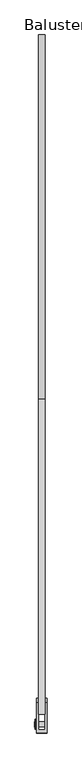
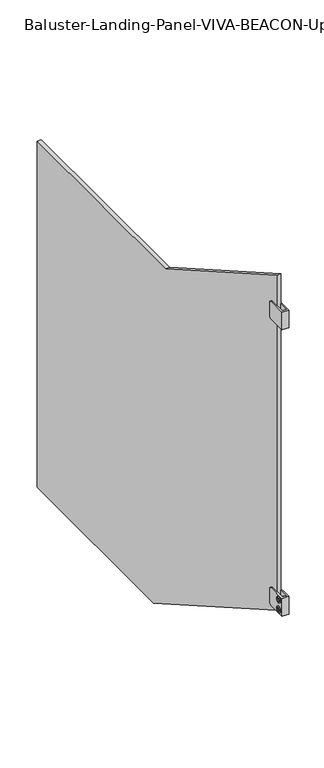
"""IFC4 building model written with IfcOpenShell, lengths in millimetres: railing geometry, Baluster-Landing-Panel-VIVA-BEACON-Upper : Standard_Glass."""

from ifc_helpers import new_model, si_unit, point, frame, origin, place, context, project, spatial, polyline, circle_curve, ellipse_curve, trimmed, outline, extrude, source, transform, mapped, element, save
from ifc_brep_helpers import plane_surface, cylinder_surface, revolved_surface, advanced_brep


def baluster_landing_panel_viva_beacon_upper_standard_glass_b4abdc5f(model_context):
    return source(origin(), model_context, "Body", "SolidModel", [
        advanced_brep(
        [(28.4327292, -26.9875, 1242.9597801), (28.4327292, 17.4625, 1242.9597801), (28.4327292, 23.8125, 1236.6097801), (28.4327292, 23.8125, 1204.8597801), (28.4327292, 17.4625, 1198.5097801), (28.4327292, -26.9875, 1198.5097801), (44.3077292, -26.9875, 1242.9597801), (44.3077292, -26.9875, 1198.5097801), (44.3077292, 17.4625, 1198.5097801), (44.3077292, 23.8125, 1204.8597801), (44.3077292, 23.8125, 1236.6097801), (44.3077292, 17.4625, 1242.9597801), (31.6077292, 17.4625, 1198.5097801), (31.6077292, -22.2694196, 1198.5097801), (41.1327292, -22.2694196, 1198.5097801), (41.1327292, 17.4625, 1198.5097801), (31.6077292, -22.2694196, 1242.9597801), (41.1327292, -22.2694196, 1242.9597801), (31.6077292, 23.8125, 1204.8597801), (31.6077292, 23.8125, 1236.6097801), (31.6077292, 17.4625, 1242.9597801), (41.1327292, 17.4625, 1242.9597801), (41.1327292, 23.8125, 1236.6097801), (41.1327292, 23.8125, 1204.8597801)],
        [
            (0, 1),
            (1, 2, circle_curve(frame((28.4327292, 17.4625, 1236.6097801), z_axis=(-1.0, 0.0, 0.0), x_axis=(0.0, 1.0, 0.0)), 6.35)),
            (2, 3),
            (3, 4, circle_curve(frame((28.4327292, 17.4625, 1204.8597801), z_axis=(-1.0, 0.0, 0.0), x_axis=(0.0, 1.0, 0.0)), 6.35)),
            (4, 5),
            (5, 0),
            (6, 7),
            (7, 8),
            (8, 9, circle_curve(frame((44.3077292, 17.4625, 1204.8597801), z_axis=(1.0, 0.0, 0.0), x_axis=(0.0, 1.0, 0.0)), 6.35)),
            (9, 10),
            (10, 11, circle_curve(frame((44.3077292, 17.4625, 1236.6097801), z_axis=(1.0, 0.0, 0.0), x_axis=(0.0, 1.0, 0.0)), 6.35)),
            (11, 6),
            (5, 7),
            (6, 0),
            (4, 12),
            (12, 13),
            (13, 14),
            (14, 15),
            (15, 8),
            (13, 16),
            (16, 17),
            (17, 14),
            (12, 18, circle_curve(frame((31.6077292, 17.4625, 1204.8597801), z_axis=(1.0, 0.0, 0.0), x_axis=(0.0, 1.0, 0.0)), 6.35)),
            (18, 19),
            (19, 20, circle_curve(frame((31.6077292, 17.4625, 1236.6097801), z_axis=(1.0, 0.0, 0.0), x_axis=(0.0, 1.0, 0.0)), 6.35)),
            (20, 16),
            (17, 21),
            (21, 22, circle_curve(frame((41.1327292, 17.4625, 1236.6097801), z_axis=(-1.0, 0.0, 0.0), x_axis=(0.0, 1.0, 0.0)), 6.35)),
            (22, 23),
            (23, 15, circle_curve(frame((41.1327292, 17.4625, 1204.8597801), z_axis=(-1.0, 0.0, 0.0), x_axis=(0.0, 1.0, 0.0)), 6.35)),
            (23, 9),
            (3, 18),
            (22, 10),
            (2, 19),
            (21, 11),
            (1, 20),
        ],
        [
            plane_surface(frame((28.4327292, -26.9875, 1198.5097801), z_axis=(-1.0, 0.0, 0.0), x_axis=(0.0, 0.0, -1.0))),
            plane_surface(frame((44.3077292, -26.9875, 1198.5097801), z_axis=(1.0, 0.0, 0.0), x_axis=(0.0, 0.0, 1.0))),
            plane_surface(frame((28.4327292, -26.9875, 1242.9597801), z_axis=(0.0, -1.0, 0.0), x_axis=(1.0, 0.0, 0.0))),
            plane_surface(frame((28.4327292, -26.9875, 1198.5097801), z_axis=(0.0, 0.0, -1.0), x_axis=(1.0, 0.0, 0.0))),
            plane_surface(frame((41.1327292, -22.2694196, 1255.6597801), z_axis=(0.0, 1.0, 0.0), x_axis=(0.0, 0.0, -1.0))),
            plane_surface(frame((31.6077292, -22.2694196, 1255.6597801), z_axis=(1.0, 0.0, 0.0), x_axis=(0.0, 0.0, -1.0))),
            plane_surface(frame((41.1327292, 36.5125, 1255.6597801), z_axis=(-1.0, 0.0, 0.0), x_axis=(0.0, 0.0, -1.0))),
            cylinder_surface(frame((44.3077292, 17.4625, 1204.8597801), z_axis=(-1.0, 0.0, 0.0), x_axis=(0.0, 1.0, 0.0)), 6.35),
            plane_surface(frame((28.4327292, 23.8125, 1204.8597801), z_axis=(0.0, 1.0, 0.0), x_axis=(1.0, 0.0, 0.0))),
            cylinder_surface(frame((44.3077292, 17.4625, 1236.6097801), z_axis=(-1.0, 0.0, 0.0), x_axis=(0.0, 1.0, 0.0)), 6.35),
            plane_surface(frame((28.4327292, 17.4625, 1242.9597801), z_axis=(0.0, 0.0, 1.0), x_axis=(1.0, 0.0, 0.0))),
        ],
        [
            (0, [[1, 2, 3, 4, 5, 6]]),
            (1, [[7, 8, 9, 10, 11, 12]]),
            (2, [[13, -7, 14, -6]]),
            (3, [[15, 16, 17, 18, 19, -8, -13, -5]]),
            (4, [[-17, 20, 21, 22]]),
            (5, [[-16, 23, 24, 25, 26, -20]]),
            (6, [[27, 28, 29, 30, -18, -22]]),
            (7, [[-19, -30, 31, -9]]),
            (7, [[32, -23, -15, -4]]),
            (8, [[-31, -29, 33, -10]]),
            (8, [[34, -24, -32, -3]]),
            (9, [[-33, -28, 35, -11]]),
            (9, [[36, -25, -34, -2]]),
            (10, [[-14, -12, -35, -27, -21, -26, -36, -1]]),
        ],
    ),
        extrude(outline(polyline([(-18.4480835, 512.022725), (-16.4011194, 515.5681709), (-12.3071911, 515.5681709), (-10.2602269, 512.022725), (-12.3071911, 508.4772791), (-16.4011194, 508.4772791), (-18.4480835, 512.022725)])), frame((26.0686477, 0.0, 0.0), z_axis=(1.0, 0.0, 0.0), x_axis=(0.0, 1.0, 0.0)), (0.0, 0.0, 1.0), 1.4969696),
        advanced_brep(
        [(41.1327292, -17.8996011, 512.022725), (28.4327292, -17.8996011, 512.022725), (28.4327292, -10.8087093, 512.022725), (41.1327292, -10.8087093, 512.022725), (28.4327292, -21.7619443, 512.022725), (28.4327292, -6.9463661, 512.022725), (27.5656173, -16.0102306, 512.022725), (41.1327292, -16.0102306, 512.022725), (41.1327292, -12.6980798, 512.022725), (27.5656173, -12.6980798, 512.022725), (27.5978844, -21.7619443, 512.022725), (26.3166123, -20.4806723, 512.022725), (26.3166123, -8.2276382, 512.022725), (27.5978844, -6.9463661, 512.022725), (26.3166123, -18.6527508, 512.022725), (26.3166123, -10.0555597, 512.022725), (27.5656173, -18.6527508, 512.022725), (27.5656173, -10.0555597, 512.022725)],
        [
            (0, 1),
            (1, 2, circle_curve(frame((28.4327292, -14.3541552, 512.022725), z_axis=(1.0, 0.0, 0.0), x_axis=(0.0, 1.0, 0.0)), 3.5454459)),
            (2, 3),
            (3, 0, circle_curve(frame((41.1327292, -14.3541552, 512.022725), z_axis=(-1.0, 0.0, 0.0), x_axis=(0.0, 1.0, 0.0)), 3.5454459)),
            (2, 1, circle_curve(frame((28.4327292, -14.3541552, 512.022725), z_axis=(1.0, 0.0, 0.0), x_axis=(0.0, 1.0, 0.0)), 3.5454459)),
            (0, 3, circle_curve(frame((41.1327292, -14.3541552, 512.022725), z_axis=(-1.0, 0.0, 0.0), x_axis=(0.0, 1.0, 0.0)), 3.5454459)),
            (1, 4),
            (4, 5, circle_curve(frame((28.4327292, -14.3541552, 512.022725), z_axis=(1.0, 0.0, 0.0), x_axis=(0.0, 1.0, 0.0)), 7.4077891)),
            (5, 2),
            (5, 4, circle_curve(frame((28.4327292, -14.3541552, 512.022725), z_axis=(1.0, 0.0, 0.0), x_axis=(0.0, 1.0, 0.0)), 7.4077891)),
            (6, 7),
            (7, 8, circle_curve(frame((41.1327292, -14.3541552, 512.022725), z_axis=(1.0, 0.0, 0.0), x_axis=(0.0, 1.0, 0.0)), 1.6560754)),
            (8, 9),
            (9, 6, circle_curve(frame((27.5656173, -14.3541552, 512.022725), z_axis=(-1.0, 0.0, 0.0), x_axis=(0.0, 1.0, 0.0)), 1.6560754)),
            (8, 7, circle_curve(frame((41.1327292, -14.3541552, 512.022725), z_axis=(1.0, 0.0, 0.0), x_axis=(0.0, 1.0, 0.0)), 1.6560754)),
            (6, 9, circle_curve(frame((27.5656173, -14.3541552, 512.022725), z_axis=(-1.0, 0.0, 0.0), x_axis=(0.0, 1.0, 0.0)), 1.6560754)),
            (10, 11, circle_curve(frame((27.5978844, -20.4806723, 512.022725), z_axis=(0.0, 0.0, -1.0), x_axis=(0.0, -1.0, 0.0)), 1.281272)),
            (11, 12, circle_curve(frame((26.3166123, -14.3541552, 512.022725), z_axis=(1.0, 0.0, 0.0), x_axis=(0.0, 1.0, 0.0)), 6.1265171)),
            (12, 13, circle_curve(frame((27.5978844, -8.2276382, 512.022725), z_axis=(0.0, 0.0, -1.0), x_axis=(0.0, 1.0, 0.0)), 1.281272)),
            (13, 10, circle_curve(frame((27.5978844, -14.3541552, 512.022725), z_axis=(-1.0, 0.0, 0.0), x_axis=(0.0, 1.0, 0.0)), 7.4077891)),
            (12, 11, circle_curve(frame((26.3166123, -14.3541552, 512.022725), z_axis=(1.0, 0.0, 0.0), x_axis=(0.0, 1.0, 0.0)), 6.1265171)),
            (10, 13, circle_curve(frame((27.5978844, -14.3541552, 512.022725), z_axis=(-1.0, 0.0, 0.0), x_axis=(0.0, 1.0, 0.0)), 7.4077891)),
            (11, 14),
            (14, 15, circle_curve(frame((26.3166123, -14.3541552, 512.022725), z_axis=(1.0, 0.0, 0.0), x_axis=(0.0, 1.0, 0.0)), 4.2985955)),
            (15, 12),
            (15, 14, circle_curve(frame((26.3166123, -14.3541552, 512.022725), z_axis=(1.0, 0.0, 0.0), x_axis=(0.0, 1.0, 0.0)), 4.2985955)),
            (4, 10),
            (13, 5),
            (7, 0),
            (3, 8),
            (14, 16),
            (16, 17, circle_curve(frame((27.5656173, -14.3541552, 512.022725), z_axis=(1.0, 0.0, 0.0), x_axis=(0.0, 1.0, 0.0)), 4.2985955)),
            (17, 15),
            (17, 16, circle_curve(frame((27.5656173, -14.3541552, 512.022725), z_axis=(1.0, 0.0, 0.0), x_axis=(0.0, 1.0, 0.0)), 4.2985955)),
            (16, 6),
            (9, 17),
        ],
        [
            cylinder_surface(frame((31.9294623, -14.3541552, 512.022725), z_axis=(1.0, 0.0, 0.0), x_axis=(0.0, 1.0, 0.0)), 3.5454459),
            plane_surface(frame((28.4327292, -14.3541552, 512.022725), z_axis=(1.0, 0.0, 0.0), x_axis=(0.0, 1.0, 0.0))),
            revolved_surface(polyline([(41.1327292, -12.698079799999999, 512.022725), (27.5656173, -12.698079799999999, 512.022725)]), (31.9294623, -14.3541552, 512.022725), (1.0, 0.0, 0.0)),
            revolved_surface(trimmed(ellipse_curve(frame((27.5978844, -8.2276382, 512.022725), z_axis=(0.0, 0.0, -1.0), x_axis=(0.0, 1.0, 0.0)), 1.281272, 1.281272), [point((26.3166123, -8.2276382, 512.022725))], [point((27.5978844, -6.9463661, 512.022725))], True, "CARTESIAN"), (31.9294623, -14.3541552, 512.022725), (1.0, 0.0, 0.0)),
            plane_surface(frame((26.3166123, -14.3541552, 512.022725), z_axis=(-1.0, 0.0, 0.0), x_axis=(0.0, 1.0, 0.0))),
            cylinder_surface(frame((31.9294623, -14.3541552, 512.022725), z_axis=(1.0, 0.0, 0.0), x_axis=(0.0, 1.0, 0.0)), 7.4077891),
            plane_surface(frame((41.1327292, -14.3541552, 512.022725), z_axis=(1.0, 0.0, 0.0), x_axis=(0.0, 1.0, 0.0))),
            revolved_surface(polyline([(27.5656173, -10.0555597, 512.022725), (26.3166123, -10.0555597, 512.022725)]), (31.9294623, -14.3541552, 512.022725), (1.0, 0.0, 0.0)),
            plane_surface(frame((27.5656173, -14.3541552, 512.022725), z_axis=(-1.0, 0.0, 0.0), x_axis=(0.0, 1.0, 0.0))),
        ],
        [
            (0, [[1, 2, 3, 4]]),
            (0, [[-3, 5, -1, 6]]),
            (1, [[7, 8, 9, -2]]),
            (1, [[-9, 10, -7, -5]]),
            (2, [[11, 12, 13, 14]]),
            (2, [[-13, 15, -11, 16]]),
            (3, [[17, 18, 19, 20]]),
            (3, [[-19, 21, -17, 22]]),
            (4, [[23, 24, 25, -18]]),
            (4, [[-25, 26, -23, -21]]),
            (5, [[27, -20, 28, -8]]),
            (5, [[-28, -22, -27, -10]]),
            (6, [[29, -4, 30, -12]]),
            (6, [[-30, -6, -29, -15]]),
            (7, [[31, 32, 33, -24]]),
            (7, [[-33, 34, -31, -26]]),
            (8, [[35, -14, 36, -32]]),
            (8, [[-36, -16, -35, -34]]),
        ],
    ),
        advanced_brep(
        [(41.1327292, -17.8996011, 487.416475), (28.4327292, -17.8996011, 487.416475), (28.4327292, -10.8087093, 487.416475), (41.1327292, -10.8087093, 487.416475), (28.4327292, -21.7619443, 487.416475), (28.4327292, -6.9463661, 487.416475), (27.5656173, -16.0102306, 487.416475), (41.1327292, -16.0102306, 487.416475), (41.1327292, -12.6980798, 487.416475), (27.5656173, -12.6980798, 487.416475), (27.5978844, -21.7619443, 487.416475), (26.3166123, -20.4806723, 487.416475), (26.3166123, -8.2276382, 487.416475), (27.5978844, -6.9463661, 487.416475), (26.3166123, -18.6527508, 487.416475), (26.3166123, -10.0555597, 487.416475), (27.5656173, -18.6527508, 487.416475), (27.5656173, -10.0555597, 487.416475)],
        [
            (0, 1),
            (1, 2, circle_curve(frame((28.4327292, -14.3541552, 487.416475), z_axis=(1.0, 0.0, 0.0), x_axis=(0.0, 1.0, 0.0)), 3.5454459)),
            (2, 3),
            (3, 0, circle_curve(frame((41.1327292, -14.3541552, 487.416475), z_axis=(-1.0, 0.0, 0.0), x_axis=(0.0, 1.0, 0.0)), 3.5454459)),
            (2, 1, circle_curve(frame((28.4327292, -14.3541552, 487.416475), z_axis=(1.0, 0.0, 0.0), x_axis=(0.0, 1.0, 0.0)), 3.5454459)),
            (0, 3, circle_curve(frame((41.1327292, -14.3541552, 487.416475), z_axis=(-1.0, 0.0, 0.0), x_axis=(0.0, 1.0, 0.0)), 3.5454459)),
            (1, 4),
            (4, 5, circle_curve(frame((28.4327292, -14.3541552, 487.416475), z_axis=(1.0, 0.0, 0.0), x_axis=(0.0, 1.0, 0.0)), 7.4077891)),
            (5, 2),
            (5, 4, circle_curve(frame((28.4327292, -14.3541552, 487.416475), z_axis=(1.0, 0.0, 0.0), x_axis=(0.0, 1.0, 0.0)), 7.4077891)),
            (6, 7),
            (7, 8, circle_curve(frame((41.1327292, -14.3541552, 487.416475), z_axis=(1.0, 0.0, 0.0), x_axis=(0.0, 1.0, 0.0)), 1.6560754)),
            (8, 9),
            (9, 6, circle_curve(frame((27.5656173, -14.3541552, 487.416475), z_axis=(-1.0, 0.0, 0.0), x_axis=(0.0, 1.0, 0.0)), 1.6560754)),
            (8, 7, circle_curve(frame((41.1327292, -14.3541552, 487.416475), z_axis=(1.0, 0.0, 0.0), x_axis=(0.0, 1.0, 0.0)), 1.6560754)),
            (6, 9, circle_curve(frame((27.5656173, -14.3541552, 487.416475), z_axis=(-1.0, 0.0, 0.0), x_axis=(0.0, 1.0, 0.0)), 1.6560754)),
            (10, 11, circle_curve(frame((27.5978844, -20.4806723, 487.416475), z_axis=(0.0, 0.0, -1.0), x_axis=(0.0, -1.0, 0.0)), 1.281272)),
            (11, 12, circle_curve(frame((26.3166123, -14.3541552, 487.416475), z_axis=(1.0, 0.0, 0.0), x_axis=(0.0, 1.0, 0.0)), 6.1265171)),
            (12, 13, circle_curve(frame((27.5978844, -8.2276382, 487.416475), z_axis=(0.0, 0.0, -1.0), x_axis=(0.0, 1.0, 0.0)), 1.281272)),
            (13, 10, circle_curve(frame((27.5978844, -14.3541552, 487.416475), z_axis=(-1.0, 0.0, 0.0), x_axis=(0.0, 1.0, 0.0)), 7.4077891)),
            (12, 11, circle_curve(frame((26.3166123, -14.3541552, 487.416475), z_axis=(1.0, 0.0, 0.0), x_axis=(0.0, 1.0, 0.0)), 6.1265171)),
            (10, 13, circle_curve(frame((27.5978844, -14.3541552, 487.416475), z_axis=(-1.0, 0.0, 0.0), x_axis=(0.0, 1.0, 0.0)), 7.4077891)),
            (11, 14),
            (14, 15, circle_curve(frame((26.3166123, -14.3541552, 487.416475), z_axis=(1.0, 0.0, 0.0), x_axis=(0.0, 1.0, 0.0)), 4.2985955)),
            (15, 12),
            (15, 14, circle_curve(frame((26.3166123, -14.3541552, 487.416475), z_axis=(1.0, 0.0, 0.0), x_axis=(0.0, 1.0, 0.0)), 4.2985955)),
            (7, 0),
            (3, 8),
            (4, 10),
            (13, 5),
            (14, 16),
            (16, 17, circle_curve(frame((27.5656173, -14.3541552, 487.416475), z_axis=(1.0, 0.0, 0.0), x_axis=(0.0, 1.0, 0.0)), 4.2985955)),
            (17, 15),
            (17, 16, circle_curve(frame((27.5656173, -14.3541552, 487.416475), z_axis=(1.0, 0.0, 0.0), x_axis=(0.0, 1.0, 0.0)), 4.2985955)),
            (16, 6),
            (9, 17),
        ],
        [
            cylinder_surface(frame((31.9294623, -14.3541552, 487.416475), z_axis=(1.0, 0.0, 0.0), x_axis=(0.0, 1.0, 0.0)), 3.5454459),
            plane_surface(frame((28.4327292, -14.3541552, 487.416475), z_axis=(1.0, 0.0, 0.0), x_axis=(0.0, 1.0, 0.0))),
            revolved_surface(polyline([(41.1327292, -12.698079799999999, 487.416475), (27.5656173, -12.698079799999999, 487.416475)]), (31.9294623, -14.3541552, 487.416475), (1.0, 0.0, 0.0)),
            revolved_surface(trimmed(ellipse_curve(frame((27.5978844, -8.2276382, 487.416475), z_axis=(0.0, 0.0, -1.0), x_axis=(0.0, 1.0, 0.0)), 1.281272, 1.281272), [point((26.3166123, -8.2276382, 487.416475))], [point((27.5978844, -6.9463661, 487.416475))], True, "CARTESIAN"), (31.9294623, -14.3541552, 487.416475), (1.0, 0.0, 0.0)),
            plane_surface(frame((26.3166123, -14.3541552, 487.416475), z_axis=(-1.0, 0.0, 0.0), x_axis=(0.0, 1.0, 0.0))),
            plane_surface(frame((41.1327292, -14.3541552, 487.416475), z_axis=(1.0, 0.0, 0.0), x_axis=(0.0, 1.0, 0.0))),
            cylinder_surface(frame((31.9294623, -14.3541552, 487.416475), z_axis=(1.0, 0.0, 0.0), x_axis=(0.0, 1.0, 0.0)), 7.4077891),
            revolved_surface(polyline([(27.5656173, -10.0555597, 487.416475), (26.3166123, -10.0555597, 487.416475)]), (31.9294623, -14.3541552, 487.416475), (1.0, 0.0, 0.0)),
            plane_surface(frame((27.5656173, -14.3541552, 487.416475), z_axis=(-1.0, 0.0, 0.0), x_axis=(0.0, 1.0, 0.0))),
        ],
        [
            (0, [[1, 2, 3, 4]]),
            (0, [[-3, 5, -1, 6]]),
            (1, [[7, 8, 9, -2]]),
            (1, [[-9, 10, -7, -5]]),
            (2, [[11, 12, 13, 14]]),
            (2, [[-13, 15, -11, 16]]),
            (3, [[17, 18, 19, 20]]),
            (3, [[-19, 21, -17, 22]]),
            (4, [[23, 24, 25, -18]]),
            (4, [[-25, 26, -23, -21]]),
            (5, [[27, -4, 28, -12]]),
            (5, [[-28, -6, -27, -15]]),
            (6, [[29, -20, 30, -8]]),
            (6, [[-30, -22, -29, -10]]),
            (7, [[31, 32, 33, -24]]),
            (7, [[-33, 34, -31, -26]]),
            (8, [[35, -14, 36, -32]]),
            (8, [[-36, -16, -35, -34]]),
        ],
    ),
        extrude(outline(polyline([(-18.4480835, 487.416475), (-16.4011194, 490.9619209), (-12.3071911, 490.9619209), (-10.2602269, 487.416475), (-12.3071911, 483.8710291), (-16.4011194, 483.8710291), (-18.4480835, 487.416475)])), frame((26.0686477, 0.0, 0.0), z_axis=(1.0, 0.0, 0.0), x_axis=(0.0, 1.0, 0.0)), (0.0, 0.0, 1.0), 1.4969696),
        advanced_brep(
        [(28.4327292, -26.9875, 521.9446), (28.4327292, 17.4625, 521.9446), (28.4327292, 23.8125, 515.5946), (28.4327292, 23.8125, 483.8446), (28.4327292, 17.4625, 477.4946), (28.4327292, -26.9875, 477.4946), (44.3077292, -26.9875, 521.9446), (44.3077292, -26.9875, 477.4946), (44.3077292, 17.4625, 477.4946), (44.3077292, 23.8125, 483.8446), (44.3077292, 23.8125, 515.5946), (44.3077292, 17.4625, 521.9446), (31.6077292, 17.4625, 477.4946), (31.6077292, -22.2694196, 477.4946), (41.1327292, -22.2694196, 477.4946), (41.1327292, 17.4625, 477.4946), (31.6077292, -22.2694196, 521.9446), (41.1327292, -22.2694196, 521.9446), (31.6077292, 23.8125, 483.8446), (31.6077292, 23.8125, 515.5946), (31.6077292, 17.4625, 521.9446), (41.1327292, 17.4625, 521.9446), (41.1327292, 23.8125, 515.5946), (41.1327292, 23.8125, 483.8446)],
        [
            (0, 1),
            (1, 2, circle_curve(frame((28.4327292, 17.4625, 515.5946), z_axis=(-1.0, 0.0, 0.0), x_axis=(0.0, 1.0, 0.0)), 6.35)),
            (2, 3),
            (3, 4, circle_curve(frame((28.4327292, 17.4625, 483.8446), z_axis=(-1.0, 0.0, 0.0), x_axis=(0.0, 1.0, 0.0)), 6.35)),
            (4, 5),
            (5, 0),
            (6, 7),
            (7, 8),
            (8, 9, circle_curve(frame((44.3077292, 17.4625, 483.8446), z_axis=(1.0, 0.0, 0.0), x_axis=(0.0, 1.0, 0.0)), 6.35)),
            (9, 10),
            (10, 11, circle_curve(frame((44.3077292, 17.4625, 515.5946), z_axis=(1.0, 0.0, 0.0), x_axis=(0.0, 1.0, 0.0)), 6.35)),
            (11, 6),
            (5, 7),
            (6, 0),
            (4, 12),
            (12, 13),
            (13, 14),
            (14, 15),
            (15, 8),
            (13, 16),
            (16, 17),
            (17, 14),
            (12, 18, circle_curve(frame((31.6077292, 17.4625, 483.8446), z_axis=(1.0, 0.0, 0.0), x_axis=(0.0, 1.0, 0.0)), 6.35)),
            (18, 19),
            (19, 20, circle_curve(frame((31.6077292, 17.4625, 515.5946), z_axis=(1.0, 0.0, 0.0), x_axis=(0.0, 1.0, 0.0)), 6.35)),
            (20, 16),
            (17, 21),
            (21, 22, circle_curve(frame((41.1327292, 17.4625, 515.5946), z_axis=(-1.0, 0.0, 0.0), x_axis=(0.0, 1.0, 0.0)), 6.35)),
            (22, 23),
            (23, 15, circle_curve(frame((41.1327292, 17.4625, 483.8446), z_axis=(-1.0, 0.0, 0.0), x_axis=(0.0, 1.0, 0.0)), 6.35)),
            (23, 9),
            (3, 18),
            (22, 10),
            (2, 19),
            (21, 11),
            (1, 20),
        ],
        [
            plane_surface(frame((28.4327292, -26.9875, 477.4946), z_axis=(-1.0, 0.0, 0.0), x_axis=(0.0, 0.0, -1.0))),
            plane_surface(frame((44.3077292, -26.9875, 477.4946), z_axis=(1.0, 0.0, 0.0), x_axis=(0.0, 0.0, 1.0))),
            plane_surface(frame((28.4327292, -26.9875, 521.9446), z_axis=(0.0, -1.0, 0.0), x_axis=(1.0, 0.0, 0.0))),
            plane_surface(frame((28.4327292, -26.9875, 477.4946), z_axis=(0.0, 0.0, -1.0), x_axis=(1.0, 0.0, 0.0))),
            plane_surface(frame((41.1327292, -22.2694196, 534.6446), z_axis=(0.0, 1.0, 0.0), x_axis=(0.0, 0.0, -1.0))),
            plane_surface(frame((31.6077292, -22.2694196, 534.6446), z_axis=(1.0, 0.0, 0.0), x_axis=(0.0, 0.0, -1.0))),
            plane_surface(frame((41.1327292, 36.5125, 534.6446), z_axis=(-1.0, 0.0, 0.0), x_axis=(0.0, 0.0, -1.0))),
            cylinder_surface(frame((44.3077292, 17.4625, 483.8446), z_axis=(-1.0, 0.0, 0.0), x_axis=(0.0, 1.0, 0.0)), 6.35),
            plane_surface(frame((28.4327292, 23.8125, 483.8446), z_axis=(0.0, 1.0, 0.0), x_axis=(1.0, 0.0, 0.0))),
            cylinder_surface(frame((44.3077292, 17.4625, 515.5946), z_axis=(-1.0, 0.0, 0.0), x_axis=(0.0, 1.0, 0.0)), 6.35),
            plane_surface(frame((28.4327292, 17.4625, 521.9446), z_axis=(0.0, 0.0, 1.0), x_axis=(1.0, 0.0, 0.0))),
        ],
        [
            (0, [[1, 2, 3, 4, 5, 6]]),
            (1, [[7, 8, 9, 10, 11, 12]]),
            (2, [[13, -7, 14, -6]]),
            (3, [[15, 16, 17, 18, 19, -8, -13, -5]]),
            (4, [[-17, 20, 21, 22]]),
            (5, [[-16, 23, 24, 25, 26, -20]]),
            (6, [[27, 28, 29, 30, -18, -22]]),
            (7, [[-19, -30, 31, -9]]),
            (7, [[32, -23, -15, -4]]),
            (8, [[-31, -29, 33, -10]]),
            (8, [[34, -24, -32, -3]]),
            (9, [[-33, -28, 35, -11]]),
            (9, [[36, -25, -34, -2]]),
            (10, [[-14, -12, -35, -27, -21, -26, -36, -1]]),
        ],
    ),
        extrude(outline(polyline([(460.2118284, 1056.2336), (990.6838797, 1056.2336), (990.6838797, 183.918425), (509.8586378, 183.918425), (0.0, 475.2086), (0.0, 1319.1597801), (460.2118284, 1056.2336)])), frame((31.6077292, 0.0, 0.0), z_axis=(1.0, 0.0, 0.0), x_axis=(0.0, 1.0, 0.0)), (0.0, 0.0, 1.0), 9.525),
    ])


if __name__ == "__main__":
    model = new_model("IFC4")
    model_context = context("Model", 3, world=origin())
    ifc_project = project(units=[si_unit("LENGTHUNIT", "METRE", prefix="MILLI")], contexts=[model_context])
    site = spatial("IfcSite", under=ifc_project)
    building = spatial("IfcBuilding", under=site)
    placement = place(None, origin())
    baluster_landing_panel_viva_beacon_upper_standard_glass_shape = baluster_landing_panel_viva_beacon_upper_standard_glass_b4abdc5f(model_context)
    element("IfcRailing", 1, ObjectType="Baluster-Landing-Panel-VIVA-BEACON-Upper : Standard_Glass", at=placement, inside=building, context=model_context, shape_type="MappedRepresentation", body=[
        mapped(baluster_landing_panel_viva_beacon_upper_standard_glass_shape, transform((0.0, 0.0, 0.0), x_axis=(1.0, 0.0, 0.0), y_axis=(0.0, 1.0, 0.0), z_axis=(0.0, 0.0, 1.0))),
    ])
    save(model, "model.ifc")
